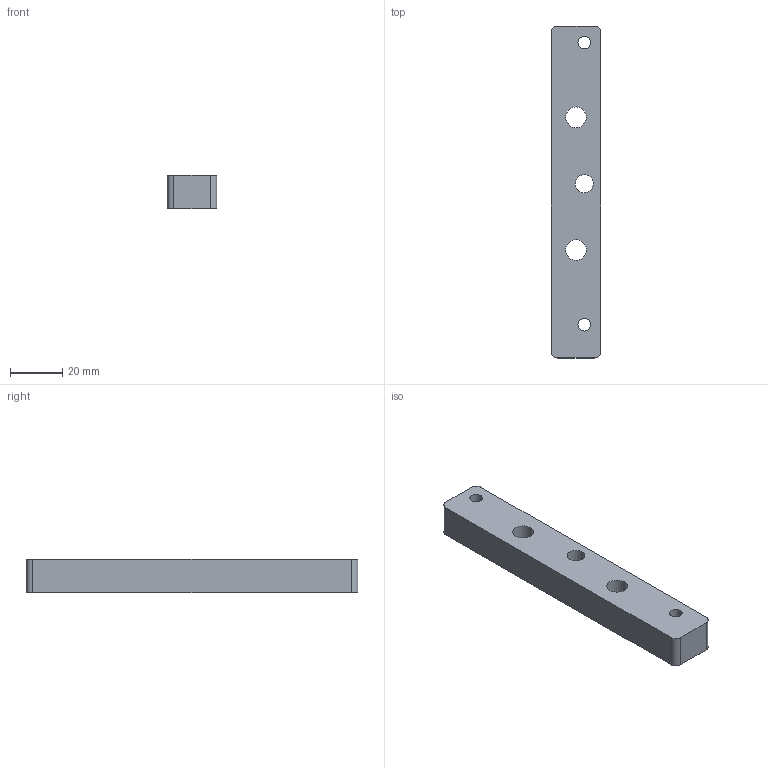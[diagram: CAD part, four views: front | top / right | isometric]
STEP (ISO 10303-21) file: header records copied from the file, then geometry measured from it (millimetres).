
FILE_DESCRIPTION (( 'STEP AP203' ), '1' );
FILE_NAME ('Gantry Slide Mount A1.STEP', '2014-01-27T21:34:41', ( 'Neil' ), ( 'Hewlett-Packard Company' ), 'SwSTEP 2.0', 'SolidWorks 2010', '' );
FILE_SCHEMA (( 'CONFIG_CONTROL_DESIGN' ));
Length unit declared in the file: inch
Products named in the file (1): Gantry Slide Mount A1
Bounding box: 19.05 x 127 x 12.7 mm (x, y, z)
Volume: 28464.8 mm3; surface area: 9429 mm2
Topology: 1 solids, 1 shells, 20 faces, 54 edges, 36 vertices
Faces by surface type: cylinder 14, plane 6
Entity records: 745 total; most frequent: DIRECTION 124, CARTESIAN_POINT 111, ORIENTED_EDGE 108, EDGE_CURVE 54, AXIS2_PLACEMENT_3D 49, VERTEX_POINT 36, EDGE_LOOP 30, CIRCLE 28
